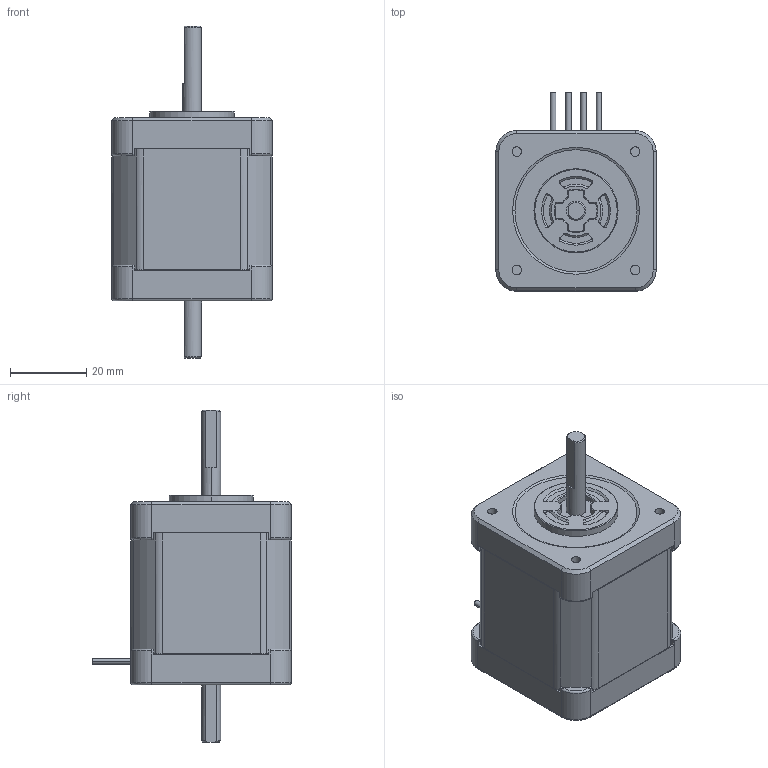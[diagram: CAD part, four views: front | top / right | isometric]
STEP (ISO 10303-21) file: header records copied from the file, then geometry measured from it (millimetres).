
FILE_DESCRIPTION (( 'STEP AP203' ), '1' );
FILE_NAME ('SH1424-5211.STEP', '2012-06-26T11:29:28', ( 'sanyodenki-admin' ), ( '' ), 'SwSTEP 2.0', 'SolidWorks 2011', '' );
FILE_SCHEMA (( 'CONFIG_CONTROL_DESIGN' ));
Length unit declared in the file: millimetre
Products named in the file (1): SH1424-5211
Bounding box: 42 x 52 x 86.95 mm (x, y, z)
Volume: 82166.9 mm3; surface area: 12921.4 mm2
Topology: 1 solids, 1 shells, 346 faces, 853 edges, 525 vertices
Faces by surface type: plane 154, cylinder 105, cone 57, bspline 18, torus 12
Entity records: 10637 total; most frequent: CARTESIAN_POINT 2467, ORIENTED_EDGE 1702, DIRECTION 1694, EDGE_CURVE 851, AXIS2_PLACEMENT_3D 624, VERTEX_POINT 525, VECTOR 446, LINE 446
